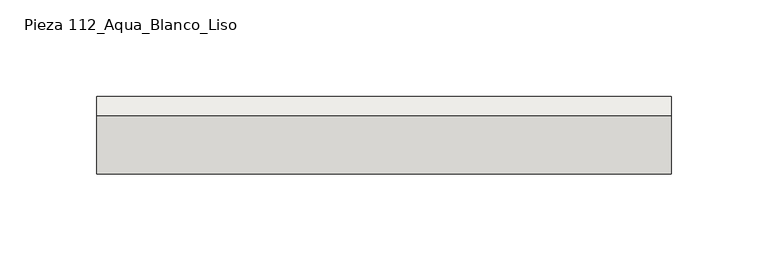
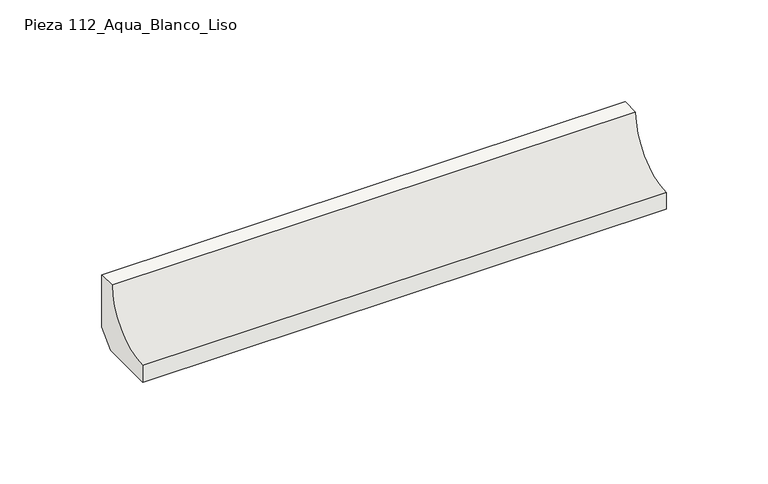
"""IFC4 building model written with IfcOpenShell, lengths in millimetres: slab geometry, ROSA GRES_112 : Pieza 112_Aqua_Blanco_Liso."""

from ifc_helpers import new_model, si_unit, point, frame, frame_2d, origin, place, context, project, spatial, polyline, circle_curve, trimmed, segment, composite_curve, outline, extrude, source, transform, mapped, element, save


def pieza_112_aqua_blanco_liso_2a19f66c(model_context):
    return source(origin(), model_context, "Body", "SweptSolid", [
        extrude(outline(composite_curve([segment(polyline([(9.9734114, 8.7114978), (1.2619137, 0.0), (-30.0265886, 0.0), (-30.0265886, 9.9734114)]), True, "CONTINUOUS"), segment(trimmed(circle_curve(frame_2d((-30.0221432, 39.9955547)), 30.0221435), [point((-30.0265886, 9.9734114))], [point((0.0, 40.0))], True, "CARTESIAN"), True, "CONTINUOUS"), segment(polyline([(0.0, 40.0), (9.9734114, 40.0), (9.9734114, 8.7114978)]), True, "CONTINUOUS")], self_intersect=False)), frame((0.0, 0.0, 0.0), z_axis=(1.0, 0.0, 0.0), x_axis=(0.0, 1.0, 0.0)), (0.0, 0.0, 1.0), 296.5),
    ])


if __name__ == "__main__":
    model = new_model("IFC4")
    model_context = context("Model", 3, world=origin())
    ifc_project = project(units=[si_unit("LENGTHUNIT", "METRE", prefix="MILLI")], contexts=[model_context])
    site = spatial("IfcSite", under=ifc_project)
    building = spatial("IfcBuilding", under=site)
    placement = place(None, origin())
    pieza_112_aqua_blanco_liso_shape = pieza_112_aqua_blanco_liso_2a19f66c(model_context)
    element("IfcSlab", 1, ObjectType="ROSA GRES_112 : Pieza 112_Aqua_Blanco_Liso", at=placement, inside=building, context=model_context, shape_type="MappedRepresentation", body=[
        mapped(pieza_112_aqua_blanco_liso_shape, transform((0.0, 0.0, 0.0), x_axis=(1.0, 0.0, 0.0), y_axis=(0.0, 1.0, 0.0), z_axis=(0.0, 0.0, 1.0))),
    ])
    save(model, "model.ifc")
